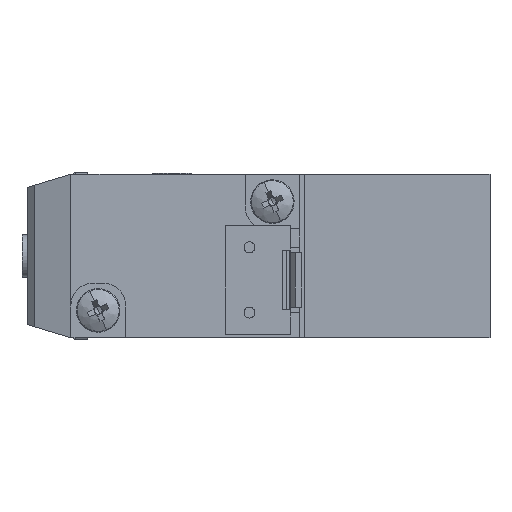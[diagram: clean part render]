
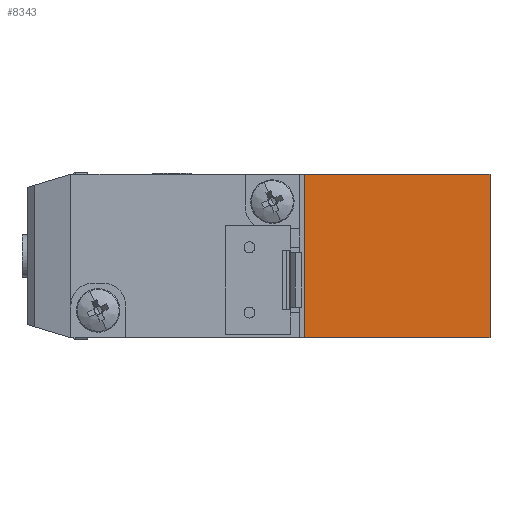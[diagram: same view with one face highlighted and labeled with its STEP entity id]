
A CAD part, left-side view. The second image highlights one B-rep face of the part: STEP entity #8343.
In plain terms, the highlighted planar face has unit normal (-1, 0, 0).
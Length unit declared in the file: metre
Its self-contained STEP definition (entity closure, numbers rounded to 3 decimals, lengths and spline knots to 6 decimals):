
#68 = DIRECTION ( 'NONE',  ( 0., 0., -1. ) ) ;
#215 = CARTESIAN_POINT ( 'NONE',  ( -0.015, 0., 0.0075 ) ) ;
#231 = DIRECTION ( 'NONE',  ( 0., 1., 0. ) ) ;
#718 = ORIENTED_EDGE ( 'NONE', *, *, #6857, .T. ) ;
#724 = EDGE_LOOP ( 'NONE', ( #2973, #6947, #3554, #718 ) ) ;
#851 = VERTEX_POINT ( 'NONE', #10320 ) ;
#1149 = CARTESIAN_POINT ( 'NONE',  ( -0.015, -0.0085, -0.0075 ) ) ;
#1510 = VECTOR ( 'NONE', #10737, 1. ) ;
#2973 = ORIENTED_EDGE ( 'NONE', *, *, #10441, .F. ) ;
#3012 = DIRECTION ( 'NONE',  ( -1., 0., 0. ) ) ;
#3155 = CARTESIAN_POINT ( 'NONE',  ( -0.015, 0.0085, 0.0075 ) ) ;
#3272 = FACE_OUTER_BOUND ( 'NONE', #724, .T. ) ;
#3359 = CARTESIAN_POINT ( 'NONE',  ( -0.015, 0., -0.0075 ) ) ;
#3541 = AXIS2_PLACEMENT_3D ( 'NONE', #1149, #3012, #9351 ) ;
#3546 = DIRECTION ( 'NONE',  ( 0., 1., 0. ) ) ;
#3554 = ORIENTED_EDGE ( 'NONE', *, *, #8238, .F. ) ;
#3673 = LINE ( 'NONE', #4325, #1510 ) ;
#4325 = CARTESIAN_POINT ( 'NONE',  ( -0.015, 0.0085, 0. ) ) ;
#4808 = VECTOR ( 'NONE', #231, 1. ) ;
#5103 = LINE ( 'NONE', #215, #4808 ) ;
#5690 = PLANE ( 'NONE',  #3541 ) ;
#5997 = VERTEX_POINT ( 'NONE', #10901 ) ;
#6166 = EDGE_CURVE ( 'NONE', #9691, #851, #9225, .T. ) ;
#6435 = CARTESIAN_POINT ( 'NONE',  ( -0.015, -0.0085, 0. ) ) ;
#6600 = VERTEX_POINT ( 'NONE', #3155 ) ;
#6857 = EDGE_CURVE ( 'NONE', #5997, #6600, #5103, .T. ) ;
#6947 = ORIENTED_EDGE ( 'NONE', *, *, #6166, .F. ) ;
#7824 = CARTESIAN_POINT ( 'NONE',  ( -0.015, -0.0085, -0.0075 ) ) ;
#8238 = EDGE_CURVE ( 'NONE', #5997, #9691, #8641, .T. ) ;
#8343 = ADVANCED_FACE ( 'NONE', ( #3272 ), #5690, .T. ) ;
#8371 = VECTOR ( 'NONE', #3546, 1. ) ;
#8641 = LINE ( 'NONE', #6435, #11143 ) ;
#9225 = LINE ( 'NONE', #3359, #8371 ) ;
#9351 = DIRECTION ( 'NONE',  ( 0., 0., 1. ) ) ;
#9691 = VERTEX_POINT ( 'NONE', #7824 ) ;
#10320 = CARTESIAN_POINT ( 'NONE',  ( -0.015, 0.0085, -0.0075 ) ) ;
#10441 = EDGE_CURVE ( 'NONE', #851, #6600, #3673, .T. ) ;
#10737 = DIRECTION ( 'NONE',  ( 0., 0., 1. ) ) ;
#10901 = CARTESIAN_POINT ( 'NONE',  ( -0.015, -0.0085, 0.0075 ) ) ;
#11143 = VECTOR ( 'NONE', #68, 1. ) ;
